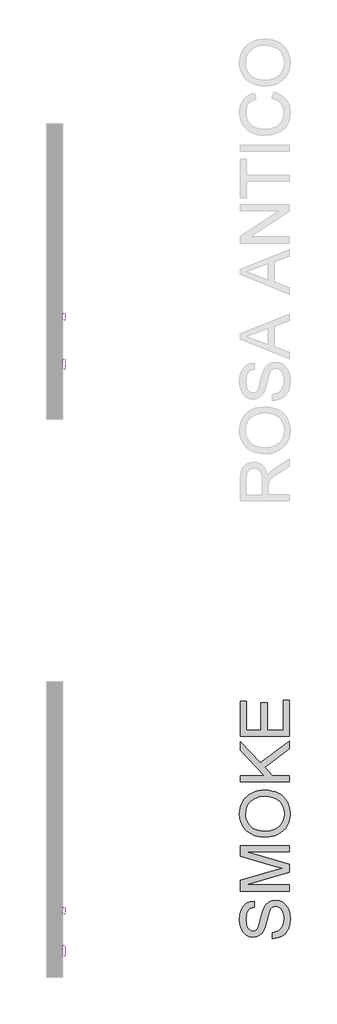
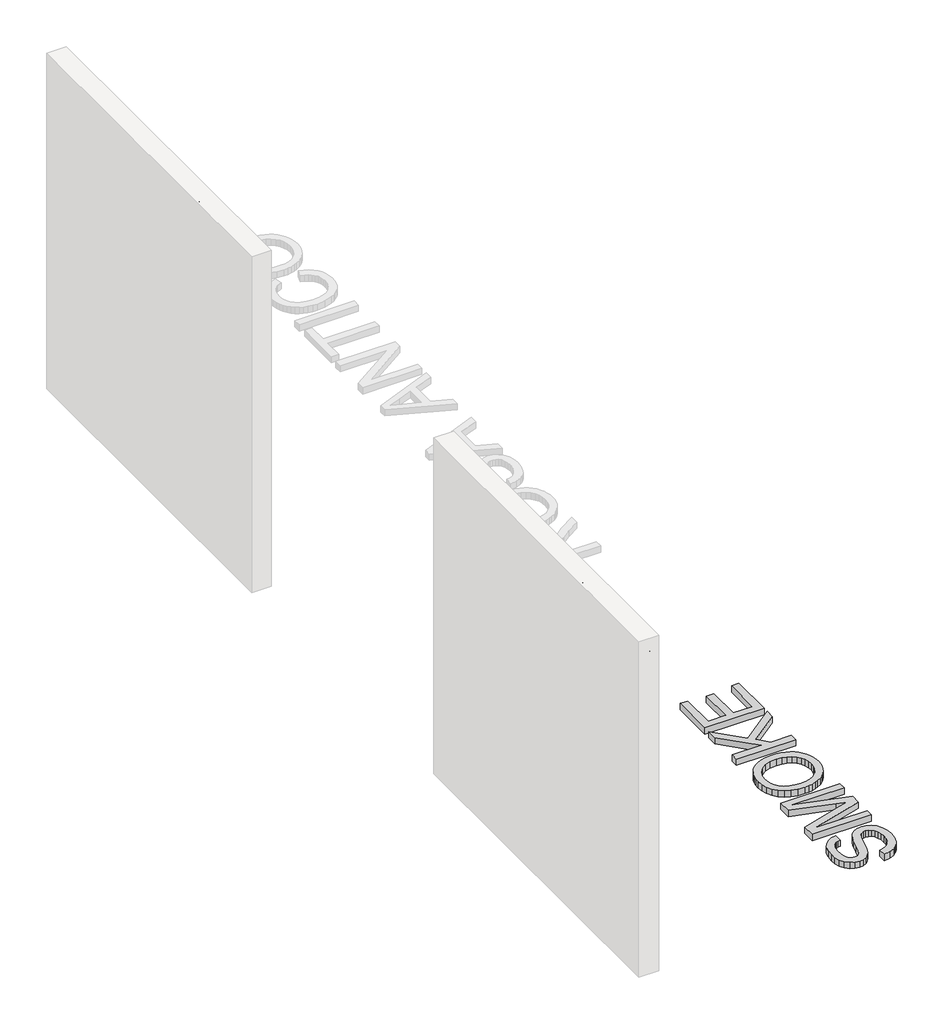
# One storey, part 5 of 6: 5 proxies.
"""IFC4 building model written with IfcOpenShell, lengths in millimetres."""

import ifcopenshell
import ifcopenshell.guid

model = None  # the IFC model being written
_history = None  # IfcOwnerHistory: only IFC2X3 demands one
_inside = {}  # id of a spatial element -> (the spatial element, [elements in it])
_under = {}  # id of a project, library or spatial element -> (it, [spatial elements below it])
_declared = {}  # id of a project -> (the project, [libraries it declares])
_typed = {}  # id of a type object -> (the type object, [elements of that type])
_made_of = {}  # id of a material, layer set ... -> (it, [elements and type objects made of it])


def new_model(schema):
    """Start an empty IFC model of exactly this schema.

    Asked for "IFC4X3", IfcOpenShell would pick the latest addendum, in which some entities
    have other attributes; the version numbers below select the first issue.
    IFC2X3 requires an IfcOwnerHistory on every rooted entity: one is made here for all.
    """
    global model, _history
    if schema == "IFC4X3":
        model = ifcopenshell.file(schema_version=(4, 3, 0, 0))
    else:
        model = ifcopenshell.file(schema=schema)
    _inside.clear()
    _under.clear()
    _declared.clear()
    _typed.clear()
    _made_of.clear()
    _history = None
    if model.schema == "IFC2X3":
        org = make("IfcOrganization", Name="unknown")
        user = make(
            "IfcPersonAndOrganization",
            ThePerson=make("IfcPerson", FamilyName="unknown"),
            TheOrganization=org,
        )
        app = make(
            "IfcApplication",
            ApplicationDeveloper=org,
            Version="unknown",
            ApplicationFullName="unknown",
            ApplicationIdentifier="unknown",
        )
        _history = make(
            "IfcOwnerHistory",
            OwningUser=user,
            OwningApplication=app,
            ChangeAction="ADDED",
            CreationDate=0,
        )
    return model


def make(cls, **values):
    """One entity of the class cls with the attributes given. An attribute that is None is left unset."""
    return model.create_entity(
        cls, **{name: value for name, value in values.items() if value is not None}
    )


def rooted(cls, **values):
    """An entity with a GlobalId (a new one), such as an element, a storey or a relation."""
    return make(cls, GlobalId=ifcopenshell.guid.new(), OwnerHistory=_history, **values)


def si_unit(unit_type, name, prefix=None):
    """IfcSIUnit, for example si_unit("LENGTHUNIT", "METRE", prefix="MILLI")."""
    return make("IfcSIUnit", UnitType=unit_type, Prefix=prefix, Name=name)


def assignment(units):
    """IfcUnitAssignment: the units of a project."""
    return None if units is None else make("IfcUnitAssignment", Units=units)


def point(xyz):
    """IfcCartesianPoint."""
    return None if xyz is None else make("IfcCartesianPoint", Coordinates=xyz)


def direction(xyz):
    """IfcDirection."""
    return None if xyz is None else make("IfcDirection", DirectionRatios=xyz)


def frame(location, z_axis=None, x_axis=None):
    """IfcAxis2Placement3D, a coordinate frame: its origin and axes. An axis left out is left unset."""
    return make(
        "IfcAxis2Placement3D",
        Location=point(location),
        Axis=direction(z_axis),
        RefDirection=direction(x_axis),
    )


def origin():
    """The frame at (0, 0, 0) with its axes left unset."""
    return frame((0.0, 0.0, 0.0))


def origin_with_axes():
    """The frame at (0, 0, 0) with the z axis (0, 0, 1) and the x axis (1, 0, 0) written out."""
    return frame((0.0, 0.0, 0.0), z_axis=(0.0, 0.0, 1.0), x_axis=(1.0, 0.0, 0.0))


def place(relative_to, where):
    """IfcLocalPlacement: puts the frame where relative to a parent placement (None: the world)."""
    return make(
        "IfcLocalPlacement", PlacementRelTo=relative_to, RelativePlacement=where
    )


def context(
    kind, dimensions, precision=None, world=None, true_north=None, identifier=None
):
    """IfcGeometricRepresentationContext, for example the 3D "Model" context."""
    return make(
        "IfcGeometricRepresentationContext",
        ContextIdentifier=identifier,
        ContextType=kind,
        CoordinateSpaceDimension=dimensions,
        Precision=precision,
        WorldCoordinateSystem=world,
        TrueNorth=true_north,
    )


def project(units=None, contexts=None):
    """IfcProject with its units and contexts."""
    return rooted(
        "IfcProject",
        Name="project",
        RepresentationContexts=contexts,
        UnitsInContext=assignment(units),
    )


def spatial(cls, under=None, at=None, **own):
    """A site, building, storey or space (cls), placed at a placement, below another one or the project."""
    s = rooted(cls, ObjectPlacement=at, **own)
    if under is not None:
        _under.setdefault(under.id(), (under, []))[1].append(s)
    return s


def polyline(points):
    """IfcPolyline through the points."""
    return make("IfcPolyline", Points=[point(p) for p in points])


def outline(outer, holes=None, kind="AREA"):
    """IfcArbitraryClosedProfileDef: a profile drawn as a closed curve; with holes, ...WithVoids."""
    if holes is None:
        return make("IfcArbitraryClosedProfileDef", ProfileType=kind, OuterCurve=outer)
    return make(
        "IfcArbitraryProfileDefWithVoids",
        ProfileType=kind,
        OuterCurve=outer,
        InnerCurves=holes,
    )


def extrude(swept, where, along, depth):
    """IfcExtrudedAreaSolid: the profile swept, set in the frame where, extruded along a direction by depth."""
    return make(
        "IfcExtrudedAreaSolid",
        SweptArea=swept,
        Position=where,
        ExtrudedDirection=direction(along),
        Depth=depth,
    )


def shape(context_of_items, identifier, shape_type, items):
    """IfcShapeRepresentation: the items that make up one representation, for example the "Body"."""
    return make(
        "IfcShapeRepresentation",
        ContextOfItems=context_of_items,
        RepresentationIdentifier=identifier,
        RepresentationType=shape_type,
        Items=items,
    )


def made_of(thing, what):
    """Note that an element or type object is made of a material, layer set ...; save() writes the relation."""
    if what is not None:
        _made_of.setdefault(what.id(), (what, []))[1].append(thing)
    return thing


def element(
    cls,
    number,
    at=None,
    inside=None,
    cuts=None,
    type_object=None,
    material=None,
    context=None,
    identifier="Body",
    shape_type=None,
    held_by="IfcProductDefinitionShape",
    body=None,
    shapes=None,
    **own,
):
    """One element of the class cls, such as IfcWall. Its Tag is "e" and its number.

    at: its placement. inside: the storey or other place that contains it. cuts: it is an
    opening in that element (IfcRelVoidsElement). A single representation is given by context,
    identifier, shape_type and body (its items); several are given by shapes. held_by: the class
    of the entity that holds the representations. save() writes the other relations.
    """
    e = rooted(cls, Tag="e%d" % number, ObjectPlacement=at, **own)
    if body is not None:
        shapes = [shape(context, identifier, shape_type, body)]
    if shapes is not None:
        e.Representation = make(held_by, Representations=shapes)
    if inside is not None:
        _inside.setdefault(inside.id(), (inside, []))[1].append(e)
    if cuts is not None:
        rooted(
            "IfcRelVoidsElement", RelatingBuildingElement=cuts, RelatedOpeningElement=e
        )
    if type_object is not None:
        _typed.setdefault(type_object.id(), (type_object, []))[1].append(e)
    return made_of(e, material)


def aggregate(whole, parts):
    """IfcRelAggregates: a whole, such as a stair, and the parts it consists of."""
    return rooted("IfcRelAggregates", RelatingObject=whole, RelatedObjects=parts)


def save(model, path):
    """Write the relations noted so far, then the file.

    IfcRelAggregates (storeys below a building ...), IfcRelContainedInSpatialStructure (elements
    in a storey), IfcRelDefinesByType, IfcRelAssociatesMaterial and IfcRelDeclares: one each for
    every whole, place, type object, material and project.
    """
    for whole, parts in _under.values():
        aggregate(whole, parts)
    for where, things in _inside.values():
        rooted(
            "IfcRelContainedInSpatialStructure",
            RelatedElements=things,
            RelatingStructure=where,
        )
    for kind, things in _typed.values():
        rooted("IfcRelDefinesByType", RelatedObjects=things, RelatingType=kind)
    for what, things in _made_of.values():
        rooted("IfcRelAssociatesMaterial", RelatedObjects=things, RelatingMaterial=what)
    for by, libraries in _declared.values():
        rooted("IfcRelDeclares", RelatingContext=by, RelatedDefinitions=libraries)
    model.write(path)


model = new_model("IFC4")

# Units and contexts
model_context = context("Model", 3, world=origin())
ifc_project = project(units=[si_unit("LENGTHUNIT", "METRE", prefix="MILLI")], contexts=[model_context])

# Site, building, storey
site = spatial("IfcSite", under=ifc_project)
building = spatial("IfcBuilding", under=site)
storey = spatial("IfcBuildingStorey", under=building, Name="PORTOBELLO - SHOWROOM", Elevation=0.0)

# Proxies
placement = place(None, origin())
element("IfcBuildingElementProxy", 1, Name="10mm Arial", ObjectType="10mm Arial", at=placement, inside=storey, context=model_context, shape_type="SweptSolid", body=[
    extrude(outline(polyline([(8827.9365006, 2478.2261649), (8827.9365006, 2578.6824751), (8871.2239487, 2578.6824751), (8891.3225683, 2575.9724111), (8902.3099772, 2566.3829537), (8906.4179929, 2551.1894273), (8904.7165386, 2541.2934016), (8899.6121759, 2533.0896331), (8890.9516206, 2527.0747625), (8878.5815886, 2523.7454305), (8885.7184993, 2518.3743533), (8895.8965678, 2505.4494326), (8912.6474613, 2478.2261649), (8898.0548088, 2478.2261649), (8884.9827353, 2499.0482859), (8875.5404307, 2512.8315979), (8868.9062921, 2519.3431093), (8862.934341, 2521.7343422), (8855.6502775, 2522.1758006), (8840.4935393, 2522.1758006), (8840.4935393, 2478.2261649), (8827.9365006, 2478.2261649)]), holes=[polyline([(8840.4935393, 2534.7328394), (8868.5997238, 2534.7328394), (8882.9348588, 2536.5109357), (8891.0773137, 2542.2008439), (8893.8609541, 2550.7234435), (8888.5511906, 2561.7844288), (8871.7635089, 2566.1254363), (8840.4935393, 2566.1254363), (8840.4935393, 2534.7328394)])]), frame((-15793.2092306, 0.0, 0.0), z_axis=(1.0, 0.0, 0.0), x_axis=(0.0, 1.0, 0.0)), (0.0, 0.0, 1.0), 20.0),
    extrude(outline(polyline([(8923.6839212, 2515.1124663), (8926.4001166, 2532.8995608), (8934.5487028, 2545.4014173), (8944.6164067, 2551.5266525), (8956.6706734, 2553.5683975), (8969.8623086, 2551.0821284), (8980.3990621, 2543.6233209), (8987.3060465, 2531.7805864), (8989.6083747, 2516.1425359), (8985.5371473, 2493.7998361), (8973.6790843, 2481.1569582), (8956.6706734, 2476.6565351), (8943.3196227, 2479.1336072), (8932.7951319, 2486.5648235), (8925.9617239, 2498.6558784), (8923.6839212, 2515.1124663)]), holes=[polyline([(8936.2409599, 2515.1369918), (8937.6940938, 2503.7725038), (8942.0534955, 2495.6760342), (8948.6140577, 2490.829189), (8956.6706734, 2489.2135739), (8964.6905009, 2490.838386), (8971.2388004, 2495.7128224), (8975.5982021, 2503.9165909), (8977.0513359, 2515.5293992), (8975.589005, 2526.5627934), (8971.2020122, 2534.5488984), (8964.6445156, 2539.3957437), (8956.6706734, 2541.0113588), (8948.6140577, 2539.4018751), (8942.0534955, 2534.5734239), (8937.6940938, 2526.4953484), (8936.2409599, 2515.1369918)])]), frame((-15793.2092306, 0.0, 0.0), z_axis=(1.0, 0.0, 0.0), x_axis=(0.0, 1.0, 0.0)), (0.0, 0.0, 1.0), 20.0),
    extrude(outline(polyline([(8999.0261538, 2500.2009828), (9011.5831925, 2501.7706126), (9017.3957281, 2492.4509354), (9030.7130563, 2489.2135739), (9043.5153497, 2492.1811553), (9047.684679, 2499.1463877), (9043.4908243, 2504.787245), (9030.5659035, 2508.3679631), (9011.6567689, 2514.5115924), (9003.4039495, 2521.6852913), (9000.5957836, 2531.8143089), (9002.8521265, 2541.1707743), (9009.0080186, 2548.3199477), (9016.9910579, 2552.0355559), (9027.7945258, 2553.5683975), (9043.0738913, 2551.1035882), (9052.785976, 2544.4326613), (9057.1024581, 2533.1632095), (9044.5454193, 2531.5935797), (9039.824267, 2538.5220239), (9028.7755445, 2541.0113588), (9016.7580659, 2538.6323885), (9013.1528224, 2533.0896331), (9014.6488758, 2529.4353387), (9019.3332399, 2526.663961), (9030.1489706, 2523.9906851), (9048.5798585, 2518.0800477), (9057.1392463, 2511.3845954), (9060.2417178, 2500.4707629), (9056.599686, 2488.4532844), (9046.0905237, 2479.7344811), (9030.541378, 2476.6565351), (9017.880106, 2478.1403258), (9008.6401366, 2482.5916979), (9002.4719818, 2489.9616006), (8999.0261538, 2500.2009828)])), frame((-15793.2092306, 0.0, 0.0), z_axis=(1.0, 0.0, 0.0), x_axis=(0.0, 1.0, 0.0)), (0.0, 0.0, 1.0), 20.0),
    extrude(outline(polyline([(9121.4572818, 2487.643944), (9109.2803877, 2479.1336072), (9095.8281694, 2476.6565351), (9085.3343355, 2478.1464572), (9077.5934852, 2482.6162234), (9072.8202163, 2489.4036462), (9071.2291267, 2497.846538), (9073.6326224, 2507.7793519), (9079.94793, 2514.989839), (9088.7403097, 2519.1101173), (9099.6050913, 2520.9985782), (9121.3837054, 2525.3150603), (9121.4572818, 2528.1109635), (9117.999191, 2537.3815898), (9104.1177771, 2541.0113588), (9091.4135855, 2538.5956003), (9085.3557953, 2530.0239499), (9072.7987565, 2531.5935797), (9078.2311473, 2543.8563129), (9089.1695053, 2551.0422745), (9105.7364578, 2553.5683975), (9120.9545097, 2551.3365801), (9129.5506857, 2545.7325111), (9133.4011839, 2537.2099115), (9134.0143205, 2526.2225026), (9134.0143205, 2510.5997805), (9134.6519827, 2488.7843782), (9137.1535802, 2478.2261649), (9124.5965415, 2478.2261649), (9121.4572818, 2487.643944)]), holes=[polyline([(9121.4572818, 2512.7580215), (9101.1992466, 2508.9075233), (9090.3957786, 2506.8719096), (9085.5029481, 2503.5609717), (9083.7861655, 2498.7294548), (9087.5262991, 2491.9359006), (9098.5014453, 2489.2135739), (9111.2056368, 2492.2179435), (9119.3971426, 2499.4897443), (9121.3837054, 2509.2018289), (9121.4572818, 2512.7580215)])]), frame((-15793.2092306, 0.0, 0.0), z_axis=(1.0, 0.0, 0.0), x_axis=(0.0, 1.0, 0.0)), (0.0, 0.0, 1.0), 20.0),
    extrude(outline(polyline([(9180.3919774, 2478.2261649), (9220.4911149, 2578.6824751), (9231.1842182, 2578.6824751), (9271.2833557, 2478.2261649), (9258.0150784, 2478.2261649), (9246.5126347, 2509.6187619), (9205.1381729, 2509.6187619), (9193.6602547, 2478.2261649), (9180.3919774, 2478.2261649)]), holes=[polyline([(9209.7489606, 2522.1758006), (9241.9263725, 2522.1758006), (9232.8764754, 2546.8729452), (9225.8376665, 2566.1254363), (9219.5836726, 2549.0311863), (9209.7489606, 2522.1758006)])]), frame((-15793.2092306, 0.0, 0.0), z_axis=(1.0, 0.0, 0.0), x_axis=(0.0, 1.0, 0.0)), (0.0, 0.0, 1.0), 20.0),
    extrude(outline(polyline([(9283.1291559, 2478.2261649), (9283.1291559, 2551.9987677), (9295.6861947, 2551.9987677), (9295.6861947, 2541.6980718), (9305.2879148, 2550.6008161), (9318.3967765, 2553.5683975), (9330.2548395, 2551.1771646), (9338.3482434, 2544.8986452), (9342.1129025, 2535.6648071), (9342.7750901, 2523.5247013), (9342.7750901, 2478.2261649), (9330.2180513, 2478.2261649), (9330.2180513, 2521.8324441), (9328.7710488, 2532.9424804), (9323.6574891, 2538.8163295), (9315.0367876, 2541.0113588), (9301.4128911, 2536.08174), (9297.1178688, 2528.938698), (9295.6861947, 2517.3688092), (9295.6861947, 2478.2261649), (9283.1291559, 2478.2261649)])), frame((-15793.2092306, 0.0, 0.0), z_axis=(1.0, 0.0, 0.0), x_axis=(0.0, 1.0, 0.0)), (0.0, 0.0, 1.0), 20.0),
    extrude(outline(polyline([(9386.7247258, 2488.6985391), (9388.2943556, 2477.8582829), (9378.901102, 2476.6565351), (9368.3796769, 2478.7411997), (9363.1312271, 2484.2103787), (9361.6106482, 2498.4596747), (9361.6106482, 2539.4417289), (9352.1928691, 2539.4417289), (9352.1928691, 2551.9987677), (9361.6106482, 2551.9987677), (9361.6106482, 2569.9268836), (9374.167687, 2577.309049), (9374.167687, 2551.9987677), (9386.7247258, 2551.9987677), (9386.7247258, 2539.4417289), (9374.167687, 2539.4417289), (9374.167687, 2498.8275567), (9374.8298746, 2492.3528336), (9376.9758529, 2490.0597024), (9381.2555468, 2489.2135739), (9386.7247258, 2488.6985391)])), frame((-15793.2092306, 0.0, 0.0), z_axis=(1.0, 0.0, 0.0), x_axis=(0.0, 1.0, 0.0)), (0.0, 0.0, 1.0), 20.0),
    extrude(outline(polyline([(-15773.2092306, 9411.8388033), (-15773.2092306, 9399.2817645), (-15793.2092306, 9399.2817645), (-15793.2092306, 9411.8388033), (-15773.2092306, 9411.8388033)])), frame((0.0, 0.0, 2566.1254363), z_axis=(0.0, 0.0, 1.0), x_axis=(1.0, 0.0, 0.0)), (0.0, 0.0, 1.0), 12.5570388),
    extrude(outline(polyline([(-15773.2092306, 9411.8388033), (-15773.2092306, 9399.2817645), (-15793.2092306, 9399.2817645), (-15793.2092306, 9411.8388033), (-15773.2092306, 9411.8388033)])), frame((0.0, 0.0, 2478.2261649), z_axis=(0.0, 0.0, 1.0), x_axis=(1.0, 0.0, 0.0)), (0.0, 0.0, 1.0), 73.7726028),
    extrude(outline(polyline([(9477.7632568, 2504.9098723), (9490.3202956, 2503.3402425), (9486.8192853, 2492.1719582), (9480.2403289, 2483.7321321), (9471.2026946, 2478.4254343), (9460.3256503, 2476.6565351), (9446.9684682, 2479.1244101), (9436.5236852, 2486.5280353), (9429.7822476, 2498.5424481), (9427.5351018, 2514.8426862), (9431.3733372, 2535.7015953), (9443.0719847, 2549.1047627), (9460.153972, 2553.5683975), (9470.7643019, 2552.0355559), (9479.2470475, 2547.437031), (9485.3324289, 2540.0180774), (9488.7506658, 2530.0239499), (9476.193627, 2528.45432), (9470.3688287, 2537.8598364), (9460.2520739, 2541.0113588), (9452.1372102, 2539.460123), (9445.6962096, 2534.8064158), (9441.4931578, 2526.798851), (9440.0921405, 2515.1860427), (9441.462501, 2503.4168846), (9445.5735823, 2495.3817286), (9451.8980869, 2490.7556126), (9459.9087173, 2489.2135739), (9471.7422548, 2493.0640721), (9477.7632568, 2504.9098723)])), frame((-15793.2092306, 0.0, 0.0), z_axis=(1.0, 0.0, 0.0), x_axis=(0.0, 1.0, 0.0)), (0.0, 0.0, 1.0), 20.0),
    extrude(outline(polyline([(9498.1684448, 2515.1124663), (9500.8846402, 2532.8995608), (9509.0332264, 2545.4014173), (9519.1009304, 2551.5266525), (9531.1551971, 2553.5683975), (9544.3468323, 2551.0821284), (9554.8835858, 2543.6233209), (9561.7905702, 2531.7805864), (9564.0928984, 2516.1425359), (9560.021671, 2493.7998361), (9548.163608, 2481.1569582), (9531.1551971, 2476.6565351), (9517.8041463, 2479.1336072), (9507.2796556, 2486.5648235), (9500.4462475, 2498.6558784), (9498.1684448, 2515.1124663)]), holes=[polyline([(9510.7254836, 2515.1369918), (9512.1786175, 2503.7725038), (9516.5380191, 2495.6760342), (9523.0985814, 2490.829189), (9531.1551971, 2489.2135739), (9539.1750246, 2490.838386), (9545.7233241, 2495.7128224), (9550.0827257, 2503.9165909), (9551.5358596, 2515.5293992), (9550.0735287, 2526.5627934), (9545.6865359, 2534.5488984), (9539.1290393, 2539.3957437), (9531.1551971, 2541.0113588), (9523.0985814, 2539.4018751), (9516.5380191, 2534.5734239), (9512.1786175, 2526.4953484), (9510.7254836, 2515.1369918)])]), frame((-15793.2092306, 0.0, 0.0), z_axis=(1.0, 0.0, 0.0), x_axis=(0.0, 1.0, 0.0)), (0.0, 0.0, 1.0), 20.0),
])
element("IfcBuildingElementProxy", 2, Name="10mm Arial", ObjectType="10mm Arial", at=placement, inside=storey, context=model_context, shape_type="SweptSolid", body=[
    extrude(outline(polyline([(3723.227611, 2512.7580215), (3735.7846498, 2512.7580215), (3739.8313517, 2500.18872), (3749.7151147, 2492.242469), (3764.773751, 2489.2135739), (3777.8948755, 2491.506705), (3786.3684241, 2497.8097498), (3789.1520646, 2506.2342475), (3787.0673999, 2514.070134), (3778.5325376, 2519.7723049), (3760.2488025, 2524.5670336), (3740.5671157, 2530.7597138), (3729.8862751, 2540.1039165), (3726.3668707, 2552.5873789), (3730.720141, 2566.7998866), (3743.4365953, 2576.8308024), (3762.0514242, 2580.2521049), (3781.917052, 2576.6713868), (3795.1608038, 2566.1499618), (3800.1394735, 2550.4291379), (3787.5824347, 2550.4291379), (3785.2770409, 2557.9216678), (3780.4700495, 2563.3295332), (3762.5419336, 2567.6950662), (3744.5647667, 2563.3785841), (3738.9239095, 2552.9552609), (3742.9215605, 2544.2487203), (3763.4248504, 2537.234437), (3785.6449229, 2530.9313921), (3797.7972914, 2520.7533236), (3801.7091033, 2506.5530786), (3797.2086802, 2491.5312304), (3784.259234, 2480.568347), (3765.2642603, 2476.6565351), (3742.8357214, 2480.8749153), (3728.6477391, 2493.5791069), (3723.227611, 2512.7580215)])), frame((-15793.2092306, 0.0, 0.0), z_axis=(1.0, 0.0, 0.0), x_axis=(0.0, 1.0, 0.0)), (0.0, 0.0, 1.0), 20.0),
    extrude(outline(polyline([(3818.9750316, 2478.2261649), (3818.9750316, 2551.9987677), (3831.5320704, 2551.9987677), (3831.5320704, 2539.8586619), (3840.1650346, 2549.8037385), (3852.4522932, 2553.5683975), (3865.0338574, 2549.7301621), (3871.9500389, 2538.9757451), (3881.7479627, 2549.9202344), (3894.1210605, 2553.5683975), (3903.5602994, 2552.0508843), (3910.5408602, 2547.4983446), (3914.8542766, 2539.7881511), (3916.2920821, 2528.7976765), (3916.2920821, 2478.2261649), (3903.7350433, 2478.2261649), (3903.7350433, 2523.4020739), (3902.5700837, 2533.8867108), (3898.3517035, 2539.0493215), (3891.1780045, 2541.0113588), (3878.8294322, 2535.9836382), (3875.1414152, 2529.44147), (3873.9120762, 2519.8704068), (3873.9120762, 2478.2261649), (3861.3550375, 2478.2261649), (3861.3550375, 2524.8000255), (3858.4487697, 2536.9646568), (3848.920626, 2541.0113588), (3839.6254743, 2538.3135575), (3833.4450568, 2530.4163573), (3831.5320704, 2515.4312974), (3831.5320704, 2478.2261649), (3818.9750316, 2478.2261649)])), frame((-15793.2092306, 0.0, 0.0), z_axis=(1.0, 0.0, 0.0), x_axis=(0.0, 1.0, 0.0)), (0.0, 0.0, 1.0), 20.0),
    extrude(outline(polyline([(3931.9883805, 2515.1124663), (3934.7045759, 2532.8995608), (3942.8531621, 2545.4014173), (3952.9208661, 2551.5266525), (3964.9751328, 2553.5683975), (3978.166768, 2551.0821284), (3988.7035215, 2543.6233209), (3995.6105059, 2531.7805864), (3997.9128341, 2516.1425359), (3993.8416067, 2493.7998361), (3981.9835437, 2481.1569582), (3964.9751328, 2476.6565351), (3951.624082, 2479.1336072), (3941.0995913, 2486.5648235), (3934.2661832, 2498.6558784), (3931.9883805, 2515.1124663)]), holes=[polyline([(3944.5454193, 2515.1369918), (3945.9985532, 2503.7725038), (3950.3579548, 2495.6760342), (3956.9185171, 2490.829189), (3964.9751328, 2489.2135739), (3972.9949603, 2490.838386), (3979.5432598, 2495.7128224), (3983.9026614, 2503.9165909), (3985.3557953, 2515.5293992), (3983.8934644, 2526.5627934), (3979.5064716, 2534.5488984), (3972.948975, 2539.3957437), (3964.9751328, 2541.0113588), (3956.9185171, 2539.4018751), (3950.3579548, 2534.5734239), (3945.9985532, 2526.4953484), (3944.5454193, 2515.1369918)])]), frame((-15793.2092306, 0.0, 0.0), z_axis=(1.0, 0.0, 0.0), x_axis=(0.0, 1.0, 0.0)), (0.0, 0.0, 1.0), 20.0),
    extrude(outline(polyline([(4012.0395027, 2478.2261649), (4012.0395027, 2578.6824751), (4024.5965415, 2578.6824751), (4024.5965415, 2524.7019237), (4052.7517768, 2551.9987677), (4070.115807, 2551.9987677), (4041.6172151, 2524.3585671), (4071.6854368, 2478.2261649), (4057.019208, 2478.2261649), (4032.616369, 2515.6275011), (4024.5965415, 2507.8529283), (4024.5965415, 2478.2261649), (4012.0395027, 2478.2261649)])), frame((-15793.2092306, 0.0, 0.0), z_axis=(1.0, 0.0, 0.0), x_axis=(0.0, 1.0, 0.0)), (0.0, 0.0, 1.0), 20.0),
    extrude(outline(polyline([(4134.3234779, 2500.2009828), (4146.635262, 2498.6313529), (4142.1992183, 2489.3545953), (4135.1205556, 2482.4200197), (4125.5586894, 2478.0974062), (4113.6730352, 2476.6565351), (4098.9393613, 2479.1428042), (4087.6024645, 2486.6016117), (4080.3735833, 2498.5485795), (4077.9639562, 2514.4993297), (4080.3981088, 2530.9865744), (4087.7005664, 2543.3167526), (4098.884179, 2551.0054863), (4112.9617967, 2553.5683975), (4126.6010217, 2551.0116177), (4137.4995258, 2543.3412781), (4144.6456335, 2531.0356253), (4147.0276695, 2514.5729061), (4146.9540931, 2511.1883917), (4090.520995, 2511.1883917), (4092.6945645, 2501.7890067), (4097.7437448, 2494.8789566), (4105.030874, 2490.6299195), (4113.9182899, 2489.2135739), (4126.230074, 2491.8377988), (4134.3234779, 2500.2009828)]), holes=[polyline([(4090.520995, 2523.7454305), (4134.4706307, 2523.7454305), (4129.4429101, 2535.1252469), (4122.1220584, 2539.5398308), (4112.9127458, 2541.0113588), (4097.4494392, 2536.314732), (4092.5841999, 2530.8240932), (4090.520995, 2523.7454305)])]), frame((-15793.2092306, 0.0, 0.0), z_axis=(1.0, 0.0, 0.0), x_axis=(0.0, 1.0, 0.0)), (0.0, 0.0, 1.0), 20.0),
])
element("IfcBuildingElementProxy", 3, Name="10mm Arial Narrow", ObjectType="10mm Arial Narrow", at=placement, inside=storey, context=model_context, shape_type="SweptSolid", body=[
    extrude(outline(polyline([(9625.0715597, 2478.2261649), (9625.0715597, 2578.9447687), (9656.3684444, 2578.9447687), (9672.6641459, 2577.066448), (9684.137132, 2567.5860048), (9688.4268104, 2550.566896), (9686.640502, 2538.4910704), (9681.2815768, 2528.8646767), (9671.537788, 2522.5634182), (9656.5968888, 2520.4629988), (9634.8185213, 2520.4629988), (9634.8185213, 2478.2261649), (9625.0715597, 2478.2261649)]), holes=[polyline([(9634.8185213, 2531.834454), (9657.7898763, 2531.834454), (9673.6540717, 2536.3652682), (9678.6798488, 2550.033859), (9676.2050343, 2560.1996354), (9670.2274055, 2565.9995852), (9657.5614319, 2567.5733134), (9634.8185213, 2567.5733134), (9634.8185213, 2531.834454)])]), frame((-15793.2092306, 0.0, 0.0), z_axis=(1.0, 0.0, 0.0), x_axis=(0.0, 1.0, 0.0)), (0.0, 0.0, 1.0), 20.0),
    extrude(outline(polyline([(9696.5492785, 2514.7772711), (9698.5037473, 2531.3680467), (9704.367154, 2543.3201315), (9713.2257207, 2550.5446861), (9724.1656698, 2552.9528709), (9734.9787054, 2550.5446861), (9743.8626548, 2543.3201315), (9749.8022096, 2531.558417), (9751.7820612, 2515.5387525), (9749.8371108, 2498.3768659), (9744.0022597, 2486.2344108), (9735.1532116, 2479.0098562), (9724.1656698, 2476.6016713), (9713.3050417, 2479.0162019), (9704.4306107, 2486.2597935), (9698.5196115, 2498.218224), (9696.5492785, 2514.7772711)]), holes=[polyline([(9706.2962401, 2514.8026538), (9707.600277, 2502.2509024), (9711.5123876, 2493.3796444), (9717.3535843, 2488.1063858), (9724.4448797, 2486.348633), (9731.1649528, 2488.12225), (9736.8570261, 2493.4431012), (9740.7405812, 2502.3302234), (9742.0350995, 2514.8026538), (9740.7310627, 2527.3163312), (9736.8189521, 2536.1748979), (9730.9777553, 2541.4481564), (9723.88646, 2543.2059093), (9717.1187942, 2541.4386379), (9711.4362394, 2536.1368238), (9707.58124, 2527.2687386), (9706.2962401, 2514.8026538)])]), frame((-15793.2092306, 0.0, 0.0), z_axis=(1.0, 0.0, 0.0), x_axis=(0.0, 1.0, 0.0)), (0.0, 0.0, 1.0), 20.0),
    extrude(outline(polyline([(9823.25978, 2486.348633), (9824.8842736, 2476.6016713), (9817.5232869, 2476.6016713), (9809.2485226, 2478.7211278), (9804.9334614, 2484.5210777), (9803.7658567, 2499.1669029), (9803.7658567, 2541.5814157), (9795.6433886, 2541.5814157), (9795.6433886, 2544.8304029), (9794.018895, 2539.9569221), (9786.4548466, 2541.5814157), (9780.375687, 2539.2588975), (9776.5048233, 2532.7736144), (9774.5249717, 2517.3663078), (9774.5249717, 2478.2261649), (9764.77801, 2478.2261649), (9764.77801, 2551.3283773), (9774.5249717, 2551.3283773), (9774.5249717, 2541.6321811), (9780.769119, 2550.7191922), (9787.1655626, 2552.9528709), (9795.6433886, 2551.3283773), (9803.7658567, 2551.3283773), (9803.7658567, 2567.5733134), (9813.5128183, 2575.6957815), (9813.5128183, 2551.3283773), (9823.25978, 2551.3283773), (9823.25978, 2541.5814157), (9813.5128183, 2541.5814157), (9813.5128183, 2496.9332242), (9814.3758305, 2488.9376697), (9818.9954842, 2486.348633), (9823.25978, 2486.348633)])), frame((-15793.2092306, 0.0, 0.0), z_axis=(1.0, 0.0, 0.0), x_axis=(0.0, 1.0, 0.0)), (0.0, 0.0, 1.0), 20.0),
    extrude(outline(polyline([(9829.7577544, 2514.7772711), (9831.7122233, 2531.3680467), (9837.5756299, 2543.3201315), (9846.4341966, 2550.5446861), (9857.3741458, 2552.9528709), (9868.1871813, 2550.5446861), (9877.0711308, 2543.3201315), (9883.0106855, 2531.558417), (9884.9905371, 2515.5387525), (9883.0455867, 2498.3768659), (9877.2107357, 2486.2344108), (9868.3616875, 2479.0098562), (9857.3741458, 2476.6016713), (9846.5135176, 2479.0162019), (9837.6390867, 2486.2597935), (9831.7280875, 2498.218224), (9829.7577544, 2514.7772711)]), holes=[polyline([(9839.5047161, 2514.8026538), (9840.8087529, 2502.2509024), (9844.7208635, 2493.3796444), (9850.5620602, 2488.1063858), (9857.6533556, 2486.348633), (9864.3734288, 2488.12225), (9870.0655021, 2493.4431012), (9873.9490571, 2502.3302234), (9875.2435755, 2514.8026538), (9873.9395386, 2527.3163312), (9870.027428, 2536.1748979), (9864.1862313, 2541.4481564), (9857.0949359, 2543.2059093), (9850.3272702, 2541.4386379), (9844.6447154, 2536.1368238), (9840.7897159, 2527.2687386), (9839.5047161, 2514.8026538)])]), frame((-15793.2092306, 0.0, 0.0), z_axis=(1.0, 0.0, 0.0), x_axis=(0.0, 1.0, 0.0)), (0.0, 0.0, 1.0), 20.0),
    extrude(outline(polyline([(9907.7334476, 2478.2261649), (9897.986486, 2478.2261649), (9897.986486, 2578.9447687), (9907.7334476, 2578.9447687), (9907.7334476, 2543.5358846), (9915.1325084, 2550.6176614), (9924.3337417, 2552.9528709), (9937.2154684, 2548.752032), (9946.4928498, 2536.0226016), (9949.9702815, 2515.3356908), (9948.0380225, 2498.8813473), (9942.2412455, 2486.6786082), (9933.8681231, 2479.1209056), (9924.2068281, 2476.6016713), (9914.8659899, 2479.2160907), (9907.7334476, 2486.9832008), (9907.7334476, 2478.2261649)]), holes=[polyline([(9907.7334476, 2515.3356908), (9909.8148301, 2498.0881376), (9915.7036194, 2489.3564844), (9924.1560627, 2486.348633), (9930.0987903, 2488.1381142), (9935.3371476, 2493.5065579), (9940.2233198, 2514.9295674), (9935.5148266, 2536.3652682), (9930.2701236, 2541.495749), (9923.953001, 2543.2059093), (9917.9753722, 2541.4164281), (9912.6830766, 2536.0479843), (9907.7334476, 2515.3356908)])]), frame((-15793.2092306, 0.0, 0.0), z_axis=(1.0, 0.0, 0.0), x_axis=(0.0, 1.0, 0.0)), (0.0, 0.0, 1.0), 20.0),
    extrude(outline(polyline([(10001.9540769, 2500.9690755), (10011.7010386, 2499.3445819), (10008.0015082, 2489.4580153), (10002.1825214, 2482.3381644), (9994.4788681, 2478.0357946), (9985.1253385, 2476.6016713), (9973.5317845, 2479.0162019), (9964.3876622, 2486.2597935), (9958.4481075, 2498.0659277), (9956.4682559, 2514.168086), (9958.457626, 2530.8350097), (9964.4257363, 2543.0155389), (9973.4397721, 2550.4685379), (9984.5669188, 2552.9528709), (9995.249868, 2550.5542046), (10003.9973853, 2543.3582056), (10009.8322364, 2531.618701), (10011.7771867, 2515.5895179), (10011.7010386, 2512.3405307), (9966.2152175, 2512.3405307), (9972.2182291, 2492.8973728), (9978.1482653, 2487.9858179), (9985.252252, 2486.348633), (9995.4307198, 2490.0037436), (10001.9540769, 2500.9690755)]), holes=[polyline([(9966.8751681, 2522.0874924), (10001.9540769, 2522.0874924), (9997.6897812, 2536.3525769), (9991.8644487, 2541.4925762), (9984.6430669, 2543.2059093), (9972.4339821, 2537.4947989), (9966.8751681, 2522.0874924)])]), frame((-15793.2092306, 0.0, 0.0), z_axis=(1.0, 0.0, 0.0), x_axis=(0.0, 1.0, 0.0)), (0.0, 0.0, 1.0), 20.0),
    extrude(outline(polyline([(-15773.2092306, 10034.4439491), (-15773.2092306, 10024.6969875), (-15793.2092306, 10024.6969875), (-15793.2092306, 10034.4439491), (-15773.2092306, 10034.4439491)])), frame((0.0, 0.0, 2478.2261649), z_axis=(0.0, 0.0, 1.0), x_axis=(1.0, 0.0, 0.0)), (0.0, 0.0, 1.0), 100.7186038),
    extrude(outline(polyline([(-15773.2092306, 10060.4358469), (-15773.2092306, 10050.6888852), (-15793.2092306, 10050.6888852), (-15793.2092306, 10060.4358469), (-15773.2092306, 10060.4358469)])), frame((0.0, 0.0, 2478.2261649), z_axis=(0.0, 0.0, 1.0), x_axis=(1.0, 0.0, 0.0)), (0.0, 0.0, 1.0), 100.7186038),
    extrude(outline(polyline([(10071.8073021, 2514.7772711), (10073.761771, 2531.3680467), (10079.6251776, 2543.3201315), (10088.4837443, 2550.5446861), (10099.4236935, 2552.9528709), (10110.2367291, 2550.5446861), (10119.1206785, 2543.3201315), (10125.0602332, 2531.558417), (10127.0400848, 2515.5387525), (10125.0951345, 2498.3768659), (10119.2602834, 2486.2344108), (10110.4112352, 2479.0098562), (10099.4236935, 2476.6016713), (10088.5630653, 2479.0162019), (10079.6886344, 2486.2597935), (10073.7776352, 2498.218224), (10071.8073021, 2514.7772711)]), holes=[polyline([(10081.5542638, 2514.8026538), (10082.8583006, 2502.2509024), (10086.7704112, 2493.3796444), (10092.611608, 2488.1063858), (10099.7029033, 2486.348633), (10106.4229765, 2488.12225), (10112.1150498, 2493.4431012), (10115.9986048, 2502.3302234), (10117.2931232, 2514.8026538), (10115.9890863, 2527.3163312), (10112.0769757, 2536.1748979), (10106.235779, 2541.4481564), (10099.1444836, 2543.2059093), (10092.3768179, 2541.4386379), (10086.6942631, 2536.1368238), (10082.8392636, 2527.2687386), (10081.5542638, 2514.8026538)])]), frame((-15793.2092306, 0.0, 0.0), z_axis=(1.0, 0.0, 0.0), x_axis=(0.0, 1.0, 0.0)), (0.0, 0.0, 1.0), 20.0),
])
element("IfcBuildingElementProxy", 4, Name="10mm Arial Narrow", ObjectType="10mm Arial Narrow", at=placement, inside=storey, context=model_context, shape_type="SweptSolid", body=[
    extrude(outline(polyline([(4200.0715597, 2478.2261649), (4200.0715597, 2578.9447687), (4231.3684444, 2578.9447687), (4247.6641459, 2577.066448), (4259.137132, 2567.5860048), (4263.4268104, 2550.566896), (4261.640502, 2538.4910704), (4256.2815768, 2528.8646767), (4246.537788, 2522.5634182), (4231.5968888, 2520.4629988), (4209.8185213, 2520.4629988), (4209.8185213, 2478.2261649), (4200.0715597, 2478.2261649)]), holes=[polyline([(4209.8185213, 2531.834454), (4232.7898763, 2531.834454), (4248.6540717, 2536.3652682), (4253.6798488, 2550.033859), (4251.2050343, 2560.1996354), (4245.2274055, 2565.9995852), (4232.5614319, 2567.5733134), (4209.8185213, 2567.5733134), (4209.8185213, 2531.834454)])]), frame((-15793.2092306, 0.0, 0.0), z_axis=(1.0, 0.0, 0.0), x_axis=(0.0, 1.0, 0.0)), (0.0, 0.0, 1.0), 20.0),
    extrude(outline(polyline([(4271.5492785, 2514.7772711), (4273.5037473, 2531.3680467), (4279.367154, 2543.3201315), (4288.2257207, 2550.5446861), (4299.1656698, 2552.9528709), (4309.9787054, 2550.5446861), (4318.8626548, 2543.3201315), (4324.8022096, 2531.558417), (4326.7820612, 2515.5387525), (4324.8371108, 2498.3768659), (4319.0022597, 2486.2344108), (4310.1532116, 2479.0098562), (4299.1656698, 2476.6016713), (4288.3050417, 2479.0162019), (4279.4306107, 2486.2597935), (4273.5196115, 2498.218224), (4271.5492785, 2514.7772711)]), holes=[polyline([(4281.2962401, 2514.8026538), (4282.600277, 2502.2509024), (4286.5123876, 2493.3796444), (4292.3535843, 2488.1063858), (4299.4448797, 2486.348633), (4306.1649528, 2488.12225), (4311.8570261, 2493.4431012), (4315.7405812, 2502.3302234), (4317.0350995, 2514.8026538), (4315.7310627, 2527.3163312), (4311.8189521, 2536.1748979), (4305.9777553, 2541.4481564), (4298.88646, 2543.2059093), (4292.1187942, 2541.4386379), (4286.4362394, 2536.1368238), (4282.58124, 2527.2687386), (4281.2962401, 2514.8026538)])]), frame((-15793.2092306, 0.0, 0.0), z_axis=(1.0, 0.0, 0.0), x_axis=(0.0, 1.0, 0.0)), (0.0, 0.0, 1.0), 20.0),
    extrude(outline(polyline([(4398.25978, 2486.348633), (4399.8842736, 2476.6016713), (4392.5232869, 2476.6016713), (4384.2485226, 2478.7211278), (4379.9334614, 2484.5210777), (4378.7658567, 2499.1669029), (4378.7658567, 2541.5814157), (4370.6433886, 2541.5814157), (4370.6433886, 2544.8304029), (4369.018895, 2539.9569221), (4361.4548466, 2541.5814157), (4355.375687, 2539.2588975), (4351.5048233, 2532.7736144), (4349.5249717, 2517.3663078), (4349.5249717, 2478.2261649), (4339.77801, 2478.2261649), (4339.77801, 2551.3283773), (4349.5249717, 2551.3283773), (4349.5249717, 2541.6321811), (4355.769119, 2550.7191922), (4362.1655626, 2552.9528709), (4370.6433886, 2551.3283773), (4378.7658567, 2551.3283773), (4378.7658567, 2567.5733134), (4388.5128183, 2575.6957815), (4388.5128183, 2551.3283773), (4398.25978, 2551.3283773), (4398.25978, 2541.5814157), (4388.5128183, 2541.5814157), (4388.5128183, 2496.9332242), (4389.3758305, 2488.9376697), (4393.9954842, 2486.348633), (4398.25978, 2486.348633)])), frame((-15793.2092306, 0.0, 0.0), z_axis=(1.0, 0.0, 0.0), x_axis=(0.0, 1.0, 0.0)), (0.0, 0.0, 1.0), 20.0),
    extrude(outline(polyline([(4404.7577544, 2514.7772711), (4406.7122233, 2531.3680467), (4412.5756299, 2543.3201315), (4421.4341966, 2550.5446861), (4432.3741458, 2552.9528709), (4443.1871813, 2550.5446861), (4452.0711308, 2543.3201315), (4458.0106855, 2531.558417), (4459.9905371, 2515.5387525), (4458.0455867, 2498.3768659), (4452.2107357, 2486.2344108), (4443.3616875, 2479.0098562), (4432.3741458, 2476.6016713), (4421.5135176, 2479.0162019), (4412.6390867, 2486.2597935), (4406.7280875, 2498.218224), (4404.7577544, 2514.7772711)]), holes=[polyline([(4414.5047161, 2514.8026538), (4415.8087529, 2502.2509024), (4419.7208635, 2493.3796444), (4425.5620602, 2488.1063858), (4432.6533556, 2486.348633), (4439.3734288, 2488.12225), (4445.0655021, 2493.4431012), (4448.9490571, 2502.3302234), (4450.2435755, 2514.8026538), (4448.9395386, 2527.3163312), (4445.027428, 2536.1748979), (4439.1862313, 2541.4481564), (4432.0949359, 2543.2059093), (4425.3272702, 2541.4386379), (4419.6447154, 2536.1368238), (4415.7897159, 2527.2687386), (4414.5047161, 2514.8026538)])]), frame((-15793.2092306, 0.0, 0.0), z_axis=(1.0, 0.0, 0.0), x_axis=(0.0, 1.0, 0.0)), (0.0, 0.0, 1.0), 20.0),
    extrude(outline(polyline([(4482.7334476, 2478.2261649), (4472.986486, 2478.2261649), (4472.986486, 2578.9447687), (4482.7334476, 2578.9447687), (4482.7334476, 2543.5358846), (4490.1325084, 2550.6176614), (4499.3337417, 2552.9528709), (4512.2154684, 2548.752032), (4521.4928498, 2536.0226016), (4524.9702815, 2515.3356908), (4523.0380225, 2498.8813473), (4517.2412455, 2486.6786082), (4508.8681231, 2479.1209056), (4499.2068281, 2476.6016713), (4489.8659899, 2479.2160907), (4482.7334476, 2486.9832008), (4482.7334476, 2478.2261649)]), holes=[polyline([(4482.7334476, 2515.3356908), (4484.8148301, 2498.0881376), (4490.7036194, 2489.3564844), (4499.1560627, 2486.348633), (4505.0987903, 2488.1381142), (4510.3371476, 2493.5065579), (4515.2233198, 2514.9295674), (4510.5148266, 2536.3652682), (4505.2701236, 2541.495749), (4498.953001, 2543.2059093), (4492.9753722, 2541.4164281), (4487.6830766, 2536.0479843), (4482.7334476, 2515.3356908)])]), frame((-15793.2092306, 0.0, 0.0), z_axis=(1.0, 0.0, 0.0), x_axis=(0.0, 1.0, 0.0)), (0.0, 0.0, 1.0), 20.0),
    extrude(outline(polyline([(4576.9540769, 2500.9690755), (4586.7010386, 2499.3445819), (4583.0015082, 2489.4580153), (4577.1825214, 2482.3381644), (4569.4788681, 2478.0357946), (4560.1253385, 2476.6016713), (4548.5317845, 2479.0162019), (4539.3876622, 2486.2597935), (4533.4481075, 2498.0659277), (4531.4682559, 2514.168086), (4533.457626, 2530.8350097), (4539.4257363, 2543.0155389), (4548.4397721, 2550.4685379), (4559.5669188, 2552.9528709), (4570.249868, 2550.5542046), (4578.9973853, 2543.3582056), (4584.8322364, 2531.618701), (4586.7771867, 2515.5895179), (4586.7010386, 2512.3405307), (4541.2152175, 2512.3405307), (4547.2182291, 2492.8973728), (4553.1482653, 2487.9858179), (4560.252252, 2486.348633), (4570.4307198, 2490.0037436), (4576.9540769, 2500.9690755)]), holes=[polyline([(4541.8751681, 2522.0874924), (4576.9540769, 2522.0874924), (4572.6897812, 2536.3525769), (4566.8644487, 2541.4925762), (4559.6430669, 2543.2059093), (4547.4339821, 2537.4947989), (4541.8751681, 2522.0874924)])]), frame((-15793.2092306, 0.0, 0.0), z_axis=(1.0, 0.0, 0.0), x_axis=(0.0, 1.0, 0.0)), (0.0, 0.0, 1.0), 20.0),
    extrude(outline(polyline([(-15773.2092306, 4609.4439491), (-15773.2092306, 4599.6969875), (-15793.2092306, 4599.6969875), (-15793.2092306, 4609.4439491), (-15773.2092306, 4609.4439491)])), frame((0.0, 0.0, 2478.2261649), z_axis=(0.0, 0.0, 1.0), x_axis=(1.0, 0.0, 0.0)), (0.0, 0.0, 1.0), 100.7186038),
    extrude(outline(polyline([(-15773.2092306, 4635.4358469), (-15773.2092306, 4625.6888852), (-15793.2092306, 4625.6888852), (-15793.2092306, 4635.4358469), (-15773.2092306, 4635.4358469)])), frame((0.0, 0.0, 2478.2261649), z_axis=(0.0, 0.0, 1.0), x_axis=(1.0, 0.0, 0.0)), (0.0, 0.0, 1.0), 100.7186038),
    extrude(outline(polyline([(4646.8073021, 2514.7772711), (4648.761771, 2531.3680467), (4654.6251776, 2543.3201315), (4663.4837443, 2550.5446861), (4674.4236935, 2552.9528709), (4685.2367291, 2550.5446861), (4694.1206785, 2543.3201315), (4700.0602332, 2531.558417), (4702.0400848, 2515.5387525), (4700.0951345, 2498.3768659), (4694.2602834, 2486.2344108), (4685.4112352, 2479.0098562), (4674.4236935, 2476.6016713), (4663.5630653, 2479.0162019), (4654.6886344, 2486.2597935), (4648.7776352, 2498.218224), (4646.8073021, 2514.7772711)]), holes=[polyline([(4656.5542638, 2514.8026538), (4657.8583006, 2502.2509024), (4661.7704112, 2493.3796444), (4667.611608, 2488.1063858), (4674.7029033, 2486.348633), (4681.4229765, 2488.12225), (4687.1150498, 2493.4431012), (4690.9986048, 2502.3302234), (4692.2931232, 2514.8026538), (4690.9890863, 2527.3163312), (4687.0769757, 2536.1748979), (4681.235779, 2541.4481564), (4674.1444836, 2543.2059093), (4667.3768179, 2541.4386379), (4661.6942631, 2536.1368238), (4657.8392636, 2527.2687386), (4656.5542638, 2514.8026538)])]), frame((-15793.2092306, 0.0, 0.0), z_axis=(1.0, 0.0, 0.0), x_axis=(0.0, 1.0, 0.0)), (0.0, 0.0, 1.0), 20.0),
])
element("IfcBuildingElementProxy", 5, Name="450mm Arial", ObjectType="450mm Arial", at=placement, inside=storey, context=model_context, shape_type="SweptSolid", body=[
    extrude(outline(polyline([(-13874.752231, 3977.6932878), (-13874.752231, 4033.9003056), (-13843.5611784, 4040.3498414), (-13818.4903235, 4052.0138954), (-13798.5928196, 4070.2098196), (-13782.92182, 4096.2549661), (-13772.7535094, 4128.0909723), (-13769.3640725, 4163.6594758), (-13771.9301644, 4194.9740301), (-13779.6284401, 4222.3914182), (-13791.8139459, 4244.6080105), (-13807.8417283, 4260.3201774), (-13826.2434888, 4269.665143), (-13845.5509288, 4272.7801315), (-13864.3643617, 4270.4473207), (-13880.6254253, 4263.4488883), (-13894.4987883, 4249.2324649), (-13906.1491199, 4225.2456809), (-13927.6109792, 4143.4051891), (-13941.8136803, 4089.6819286), (-13955.3302605, 4055.3072753), (-13974.2397504, 4027.3272682), (-13997.1561859, 4007.4983764), (-14023.58556, 3995.6833758), (-14053.0338658, 3991.7450422), (-14085.9539429, 3996.6165001), (-14116.6509885, 4011.2308736), (-14142.6686901, 4035.2039352), (-14161.5507352, 4068.1514571), (-14173.0363978, 4107.6994614), (-14176.864952, 4151.4739699), (-14172.8580064, 4198.8986412), (-14160.8371695, 4240.3952286), (-14141.049445, 4274.4817112), (-14113.7418362, 4299.6760678), (-14080.6159229, 4315.6215157), (-14043.3732846, 4321.9612721), (-14043.3732846, 4265.7542543), (-14061.3084829, 4261.9943122), (-14076.9108704, 4255.4349971), (-14090.1804471, 4246.0763091), (-14101.1172131, 4233.9182481), (-14109.6662785, 4218.7343943), (-14115.7727538, 4200.2983277), (-14120.6579341, 4153.6695566), (-14115.8276435, 4105.9429921), (-14109.7897803, 4087.6990394), (-14101.3367717, 4073.2013064), (-14080.0121365, 4054.2643717), (-14067.8472143, 4049.530138), (-14054.6805557, 4047.9520601), (-14033.0814722, 4052.4255679), (-14015.708893, 4065.8460912), (-14000.1751175, 4097.572318), (-13984.3120041, 4157.6216125), (-13969.2447908, 4219.5920453), (-13956.0987158, 4257.0816871), (-13935.707205, 4289.1235295), (-13910.5402932, 4311.4773459), (-13880.8724288, 4324.6096985), (-13846.9780601, 4328.9871494), (-13812.3289585, 4323.9510225), (-13779.7382194, 4308.842642), (-13751.6896001, 4284.2795165), (-13730.6668581, 4250.8791548), (-13717.5345055, 4210.7136418), (-13713.1570547, 4165.8550624), (-13717.8775659, 4110.7870051), (-13732.0390997, 4065.4618635), (-13742.6739725, 4046.3225231), (-13755.6965457, 4029.3581858), (-13771.1068194, 4014.5688514), (-13788.9047936, 4001.9545201), (-13829.3584773, 3984.3623822), (-13874.752231, 3977.6932878)])), origin_with_axes(), (0.0, 0.0, 1.0), 50.0),
    extrude(outline(polyline([(-13720.1829319, 4413.2976761), (-14169.8390747, 4413.2976761), (-14169.8390747, 4510.0132674), (-13852.906144, 4602.0083474), (-13786.7092069, 4620.5610545), (-13858.3951106, 4640.6506722), (-14169.8390747, 4731.1088415), (-14169.8390747, 4827.8244328), (-13720.1829319, 4827.8244328), (-13720.1829319, 4771.6174149), (-14113.6320569, 4771.6174149), (-13720.1829319, 4658.6544826), (-13720.1829319, 4582.4676264), (-14113.6320569, 4469.504694), (-13720.1829319, 4469.504694), (-13720.1829319, 4413.2976761)])), origin_with_axes(), (0.0, 0.0, 1.0), 50.0),
    extrude(outline(polyline([(-13939.0829194, 4905.1090823), (-13991.8250271, 4908.855302), (-14038.5155491, 4920.0939611), (-14079.1544855, 4938.8250596), (-14113.7418362, 4965.0485975), (-14141.3581994, 4997.1933581), (-14161.084173, 5033.6881247), (-14172.9197572, 5074.5328973), (-14176.864952, 5119.7276759), (-14175.0124257, 5149.978743), (-14169.4548471, 5178.7066219), (-14160.192216, 5205.9113125), (-14147.2245324, 5231.5928149), (-14130.9428853, 5255.0307023), (-14111.7383634, 5275.5045476), (-14089.6109669, 5293.0143511), (-14064.5606956, 5307.5601125), (-14037.1570299, 5318.9908854), (-14007.9694501, 5327.1557232), (-13976.9979561, 5332.0546259), (-13944.242548, 5333.6875935), (-13911.0548838, 5331.9688608), (-13879.6648561, 5326.8126628), (-13850.072465, 5318.2189995), (-13822.2777104, 5306.1878709), (-13797.0147417, 5291.004017), (-13775.0177081, 5272.9521782), (-13756.2866096, 5252.0323543), (-13740.8214463, 5228.2445453), (-13728.718275, 5202.5253063), (-13720.0731526, 5175.811192), (-13714.8860792, 5148.1022026), (-13713.1570547, 5119.3983379), (-13715.0679012, 5088.6189578), (-13720.8004407, 5059.5137124), (-13730.3546731, 5032.0826019), (-13743.7305986, 5006.3256262), (-13760.4101958, 4982.9151837), (-13779.8754435, 4962.5236728), (-13802.1263418, 4945.1510936), (-13827.1628907, 4930.797446), (-13853.9799231, 4919.5587869), (-13881.572272, 4911.5311733), (-13909.9399374, 4906.7146051), (-13939.0829194, 4905.1090823)]), holes=[polyline([(-13938.5340227, 4961.3161002), (-13901.2708008, 4964.125765), (-13868.1929159, 4972.5547593), (-13839.3003681, 4986.6030831), (-13814.5931572, 5006.2707365), (-13794.8054327, 5030.1786166), (-13780.6713437, 5056.9476206), (-13772.1908903, 5086.5777483), (-13769.3640725, 5119.0689999), (-13772.2183352, 5152.1160094), (-13780.781123, 5182.0960588), (-13795.0524362, 5209.009148), (-13815.0322745, 5232.8552773), (-13840.2609372, 5252.3788453), (-13870.2787232, 5266.324251), (-13905.0856326, 5274.6914945), (-13944.6816653, 5277.4805756), (-13994.4391474, 5272.7051747), (-14037.4452006, 5258.3789719), (-14072.6157541, 5234.8724725), (-14098.8667368, 5202.5561817), (-14115.2101348, 5163.5707965), (-14120.6579341, 5120.0570139), (-14118.033522, 5088.6944311), (-14110.1602855, 5059.5960469), (-14097.0382248, 5032.7618615), (-14078.6673397, 5008.1918749), (-14054.1625345, 4987.6837234), (-14022.6387133, 4973.0350439), (-13984.095876, 4964.2458361), (-13938.5340227, 4961.3161002)])]), origin_with_axes(), (0.0, 0.0, 1.0), 50.0),
    extrude(outline(polyline([(-13720.1829319, 5410.972243), (-14169.8390747, 5410.972243), (-14169.8390747, 5467.1792609), (-13949.7315146, 5467.1792609), (-14169.8390747, 5697.7158575), (-14169.8390747, 5776.3178591), (-13984.9706801, 5582.7768972), (-13720.1829319, 5783.3437363), (-13720.1829319, 5714.6218746), (-13946.9870313, 5542.9269998), (-13874.752231, 5467.1792609), (-13720.1829319, 5467.1792609), (-13720.1829319, 5410.972243)])), origin_with_axes(), (0.0, 0.0, 1.0), 50.0),
    extrude(outline(polyline([(-13720.1829319, 5825.4989997), (-14169.8390747, 5825.4989997), (-14169.8390747, 6148.6893523), (-14113.6320569, 6148.6893523), (-14113.6320569, 5881.7060175), (-13980.1403895, 5881.7060175), (-13980.1403895, 6134.6375979), (-13923.9333716, 6134.6375979), (-13923.9333716, 5881.7060175), (-13776.3899498, 5881.7060175), (-13776.3899498, 6155.7152296), (-13720.1829319, 6155.7152296), (-13720.1829319, 5825.4989997)])), origin_with_axes(), (0.0, 0.0, 1.0), 50.0),
])

save(model, "model.ifc")
